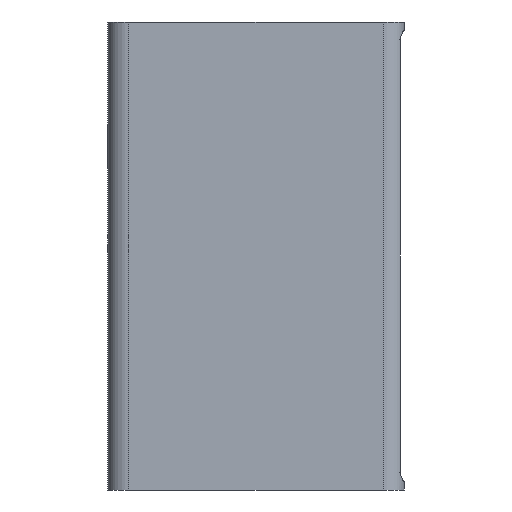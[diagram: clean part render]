
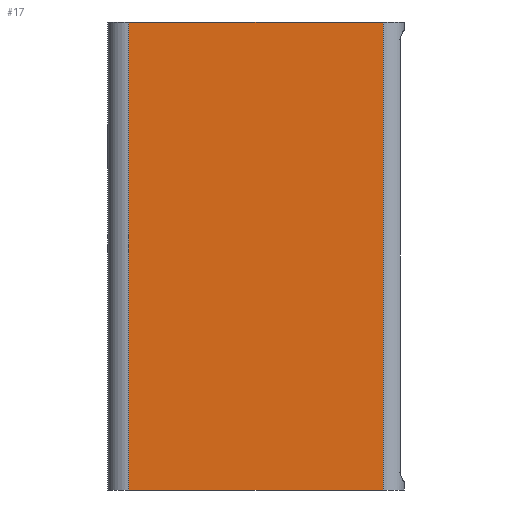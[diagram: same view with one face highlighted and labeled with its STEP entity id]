
A CAD part, left-side view. The second image highlights one B-rep face of the part: STEP entity #17.
In plain terms, the highlighted planar face has unit normal (-1, 0, 0).
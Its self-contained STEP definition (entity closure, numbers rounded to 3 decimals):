
#17 = ADVANCED_FACE('',(#18),#32,.F.);
#18 = FACE_BOUND('',#19,.F.);
#19 = EDGE_LOOP('',(#20,#55,#83,#111));
#20 = ORIENTED_EDGE('',*,*,#21,.F.);
#21 = EDGE_CURVE('',#22,#24,#26,.T.);
#22 = VERTEX_POINT('',#23);
#23 = CARTESIAN_POINT('',(0.,7.,158.));
#24 = VERTEX_POINT('',#25);
#25 = CARTESIAN_POINT('',(0.,93.,158.));
#26 = SURFACE_CURVE('',#27,(#31,#43),.PCURVE_S1.);
#27 = LINE('',#28,#29);
#28 = CARTESIAN_POINT('',(0.,0.,158.));
#29 = VECTOR('',#30,1.);
#30 = DIRECTION('',(-0.,1.,0.));
#31 = PCURVE('',#32,#37);
#32 = PLANE('',#33);
#33 = AXIS2_PLACEMENT_3D('',#34,#35,#36);
#34 = CARTESIAN_POINT('',(0.,0.,0.));
#35 = DIRECTION('',(1.,0.,-0.));
#36 = DIRECTION('',(0.,0.,1.));
#37 = DEFINITIONAL_REPRESENTATION('',(#38),#42);
#38 = LINE('',#39,#40);
#39 = CARTESIAN_POINT('',(158.,0.));
#40 = VECTOR('',#41,1.);
#41 = DIRECTION('',(0.,-1.));
#42 = ( GEOMETRIC_REPRESENTATION_CONTEXT(2) 
PARAMETRIC_REPRESENTATION_CONTEXT() REPRESENTATION_CONTEXT('2D SPACE',''
  ) );
#43 = PCURVE('',#44,#49);
#44 = PLANE('',#45);
#45 = AXIS2_PLACEMENT_3D('',#46,#47,#48);
#46 = CARTESIAN_POINT('',(0.,0.,158.));
#47 = DIRECTION('',(0.,0.,1.));
#48 = DIRECTION('',(1.,0.,-0.));
#49 = DEFINITIONAL_REPRESENTATION('',(#50),#54);
#50 = LINE('',#51,#52);
#51 = CARTESIAN_POINT('',(0.,0.));
#52 = VECTOR('',#53,1.);
#53 = DIRECTION('',(0.,1.));
#54 = ( GEOMETRIC_REPRESENTATION_CONTEXT(2) 
PARAMETRIC_REPRESENTATION_CONTEXT() REPRESENTATION_CONTEXT('2D SPACE',''
  ) );
#55 = ORIENTED_EDGE('',*,*,#56,.F.);
#56 = EDGE_CURVE('',#57,#22,#59,.T.);
#57 = VERTEX_POINT('',#58);
#58 = CARTESIAN_POINT('',(0.,7.,0.));
#59 = SURFACE_CURVE('',#60,(#64,#71),.PCURVE_S1.);
#60 = LINE('',#61,#62);
#61 = CARTESIAN_POINT('',(0.,7.,0.));
#62 = VECTOR('',#63,1.);
#63 = DIRECTION('',(0.,0.,1.));
#64 = PCURVE('',#32,#65);
#65 = DEFINITIONAL_REPRESENTATION('',(#66),#70);
#66 = LINE('',#67,#68);
#67 = CARTESIAN_POINT('',(0.,-7.));
#68 = VECTOR('',#69,1.);
#69 = DIRECTION('',(1.,0.));
#70 = ( GEOMETRIC_REPRESENTATION_CONTEXT(2) 
PARAMETRIC_REPRESENTATION_CONTEXT() REPRESENTATION_CONTEXT('2D SPACE',''
  ) );
#71 = PCURVE('',#72,#77);
#72 = CYLINDRICAL_SURFACE('',#73,7.);
#73 = AXIS2_PLACEMENT_3D('',#74,#75,#76);
#74 = CARTESIAN_POINT('',(7.,7.,0.));
#75 = DIRECTION('',(0.,0.,1.));
#76 = DIRECTION('',(-1.,-0.,0.));
#77 = DEFINITIONAL_REPRESENTATION('',(#78),#82);
#78 = LINE('',#79,#80);
#79 = CARTESIAN_POINT('',(0.,0.));
#80 = VECTOR('',#81,1.);
#81 = DIRECTION('',(0.,1.));
#82 = ( GEOMETRIC_REPRESENTATION_CONTEXT(2) 
PARAMETRIC_REPRESENTATION_CONTEXT() REPRESENTATION_CONTEXT('2D SPACE',''
  ) );
#83 = ORIENTED_EDGE('',*,*,#84,.T.);
#84 = EDGE_CURVE('',#57,#85,#87,.T.);
#85 = VERTEX_POINT('',#86);
#86 = CARTESIAN_POINT('',(0.,93.,0.));
#87 = SURFACE_CURVE('',#88,(#92,#99),.PCURVE_S1.);
#88 = LINE('',#89,#90);
#89 = CARTESIAN_POINT('',(0.,0.,0.));
#90 = VECTOR('',#91,1.);
#91 = DIRECTION('',(-0.,1.,0.));
#92 = PCURVE('',#32,#93);
#93 = DEFINITIONAL_REPRESENTATION('',(#94),#98);
#94 = LINE('',#95,#96);
#95 = CARTESIAN_POINT('',(0.,0.));
#96 = VECTOR('',#97,1.);
#97 = DIRECTION('',(0.,-1.));
#98 = ( GEOMETRIC_REPRESENTATION_CONTEXT(2) 
PARAMETRIC_REPRESENTATION_CONTEXT() REPRESENTATION_CONTEXT('2D SPACE',''
  ) );
#99 = PCURVE('',#100,#105);
#100 = PLANE('',#101);
#101 = AXIS2_PLACEMENT_3D('',#102,#103,#104);
#102 = CARTESIAN_POINT('',(0.,0.,0.));
#103 = DIRECTION('',(0.,0.,1.));
#104 = DIRECTION('',(1.,0.,-0.));
#105 = DEFINITIONAL_REPRESENTATION('',(#106),#110);
#106 = LINE('',#107,#108);
#107 = CARTESIAN_POINT('',(0.,0.));
#108 = VECTOR('',#109,1.);
#109 = DIRECTION('',(0.,1.));
#110 = ( GEOMETRIC_REPRESENTATION_CONTEXT(2) 
PARAMETRIC_REPRESENTATION_CONTEXT() REPRESENTATION_CONTEXT('2D SPACE',''
  ) );
#111 = ORIENTED_EDGE('',*,*,#112,.T.);
#112 = EDGE_CURVE('',#85,#24,#113,.T.);
#113 = SURFACE_CURVE('',#114,(#118,#125),.PCURVE_S1.);
#114 = LINE('',#115,#116);
#115 = CARTESIAN_POINT('',(0.,93.,0.));
#116 = VECTOR('',#117,1.);
#117 = DIRECTION('',(0.,0.,1.));
#118 = PCURVE('',#32,#119);
#119 = DEFINITIONAL_REPRESENTATION('',(#120),#124);
#120 = LINE('',#121,#122);
#121 = CARTESIAN_POINT('',(0.,-93.));
#122 = VECTOR('',#123,1.);
#123 = DIRECTION('',(1.,0.));
#124 = ( GEOMETRIC_REPRESENTATION_CONTEXT(2) 
PARAMETRIC_REPRESENTATION_CONTEXT() REPRESENTATION_CONTEXT('2D SPACE',''
  ) );
#125 = PCURVE('',#126,#131);
#126 = CYLINDRICAL_SURFACE('',#127,7.);
#127 = AXIS2_PLACEMENT_3D('',#128,#129,#130);
#128 = CARTESIAN_POINT('',(7.,93.,0.));
#129 = DIRECTION('',(0.,0.,1.));
#130 = DIRECTION('',(-1.,-0.,0.));
#131 = DEFINITIONAL_REPRESENTATION('',(#132),#136);
#132 = LINE('',#133,#134);
#133 = CARTESIAN_POINT('',(-0.,0.));
#134 = VECTOR('',#135,1.);
#135 = DIRECTION('',(-0.,1.));
#136 = ( GEOMETRIC_REPRESENTATION_CONTEXT(2) 
PARAMETRIC_REPRESENTATION_CONTEXT() REPRESENTATION_CONTEXT('2D SPACE',''
  ) );
